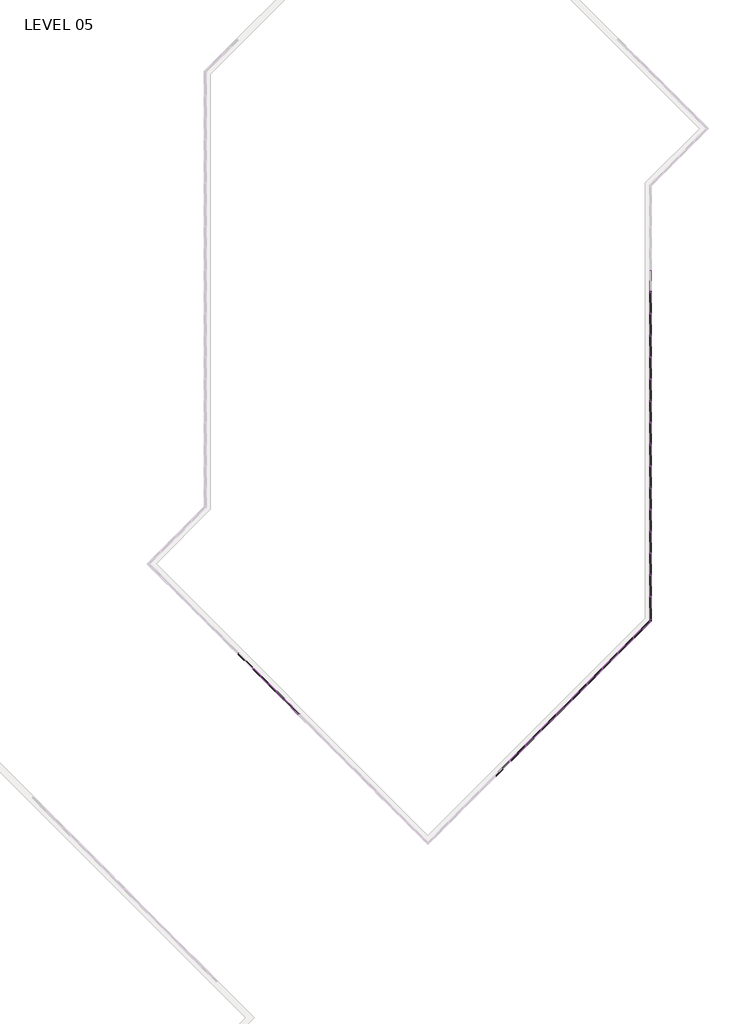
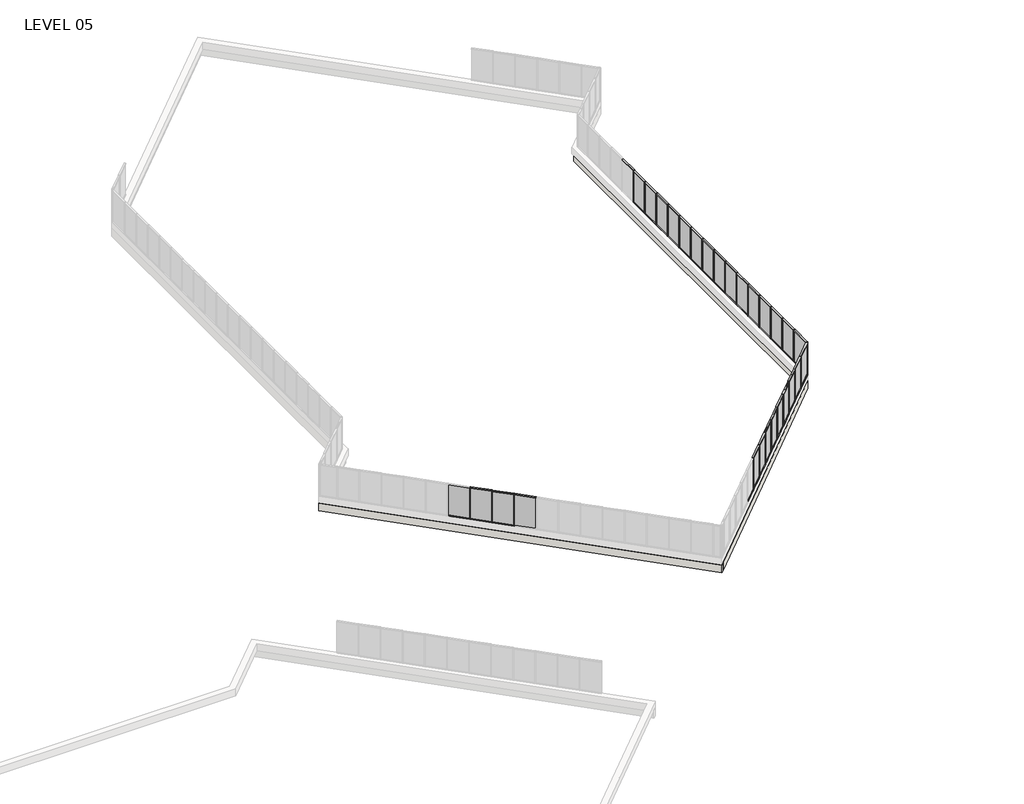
# One storey, part 11 of 17: 85 members, 28 plates, 3 walls.
"""IFC4 building model written with IfcOpenShell, lengths in millimetres."""

from ifc_helpers import new_model, si_unit, origin, place, context, project, spatial, faceted_brep, transform, mapped, element, save
from components import member_5247f267, member_e44af9ab, member_800970d4, member_1bd862b2, member_c975838b, member_910c08c9, plate_67294edd, plate_bbcbcabf, plate_3fb62afd, plate_88df3e37

model = new_model("IFC4")

# Units and contexts
model_context = context("Model", 3, world=origin())
ifc_project = project(units=[si_unit("LENGTHUNIT", "METRE", prefix="MILLI")], contexts=[model_context])

# Site, building, storey
site = spatial("IfcSite", under=ifc_project)
building = spatial("IfcBuilding", under=site)
storey = spatial("IfcBuildingStorey", under=building, Name="LEVEL 05", Elevation=15824.2)

# Members
placement = place(None, origin())
member_shape = member_5247f267(model_context)
element("IfcMember", 1, ObjectType="Rectangular Mullion : 2\" x 4.5\" rectangular", at=placement, inside=storey, context=model_context, shape_type="MappedRepresentation", body=[
    mapped(member_shape, transform((92435.9347164, 58305.3675885, 18415.0), x_axis=(0.0, 0.0, 1.0), y_axis=(-1.0, 0.0, 0.0), z_axis=(0.0, -1.0, 0.0))),
])
element("IfcMember", 2, ObjectType="Rectangular Mullion : 2\" x 4.5\" rectangular", at=placement, inside=storey, context=model_context, shape_type="MappedRepresentation", body=[
    mapped(member_shape, transform((92435.9347164, 56781.3675885, 18415.0), x_axis=(0.0, 0.0, 1.0), y_axis=(-1.0, 0.0, 0.0), z_axis=(0.0, -1.0, 0.0))),
])
element("IfcMember", 3, ObjectType="Rectangular Mullion : 2\" x 4.5\" rectangular", at=placement, inside=storey, context=model_context, shape_type="MappedRepresentation", body=[
    mapped(member_shape, transform((92435.9347164, 55257.3675885, 18415.0), x_axis=(0.0, 0.0, 1.0), y_axis=(-1.0, 0.0, 0.0), z_axis=(0.0, -1.0, 0.0))),
])
element("IfcMember", 4, ObjectType="Rectangular Mullion : 2\" x 4.5\" rectangular", at=placement, inside=storey, context=model_context, shape_type="MappedRepresentation", body=[
    mapped(member_shape, transform((92435.9347164, 52209.3675885, 18415.0), x_axis=(0.0, 0.0, 1.0), y_axis=(-1.0, 0.0, 0.0), z_axis=(0.0, -1.0, 0.0))),
])
element("IfcMember", 5, ObjectType="Rectangular Mullion : 2\" x 4.5\" rectangular", at=placement, inside=storey, context=model_context, shape_type="MappedRepresentation", body=[
    mapped(member_shape, transform((92435.9347164, 50685.3675885, 18415.0), x_axis=(0.0, 0.0, 1.0), y_axis=(-1.0, 0.0, 0.0), z_axis=(0.0, -1.0, 0.0))),
])
element("IfcMember", 6, ObjectType="Rectangular Mullion : 2\" x 4.5\" rectangular", at=placement, inside=storey, context=model_context, shape_type="MappedRepresentation", body=[
    mapped(member_shape, transform((92435.9347164, 47637.3675885, 18415.0), x_axis=(0.0, 0.0, 1.0), y_axis=(-1.0, 0.0, 0.0), z_axis=(0.0, -1.0, 0.0))),
])
element("IfcMember", 7, ObjectType="Rectangular Mullion : 2\" x 4.5\" rectangular", at=placement, inside=storey, context=model_context, shape_type="MappedRepresentation", body=[
    mapped(member_shape, transform((92435.9347164, 43065.3675885, 18415.0), x_axis=(0.0, 0.0, 1.0), y_axis=(-1.0, 0.0, 0.0), z_axis=(0.0, -1.0, 0.0))),
])
element("IfcMember", 8, ObjectType="Rectangular Mullion : 2\" x 4.5\" rectangular", at=placement, inside=storey, context=model_context, shape_type="MappedRepresentation", body=[
    mapped(member_shape, transform((92435.9347164, 41541.3675885, 18415.0), x_axis=(0.0, 0.0, 1.0), y_axis=(-1.0, 0.0, 0.0), z_axis=(0.0, -1.0, 0.0))),
])
element("IfcMember", 9, ObjectType="Rectangular Mullion : 2\" x 4.5\" rectangular", at=placement, inside=storey, context=model_context, shape_type="MappedRepresentation", body=[
    mapped(member_shape, transform((92435.9347164, 59829.3675885, 18415.0), x_axis=(0.0, 0.0, 1.0), y_axis=(-1.0, 0.0, 0.0), z_axis=(0.0, -1.0, 0.0))),
])
element("IfcMember", 10, ObjectType="Rectangular Mullion : 2\" x 4.5\" rectangular", at=placement, inside=storey, context=model_context, shape_type="MappedRepresentation", body=[
    mapped(member_shape, transform((92435.9347164, 61353.3675885, 18415.0), x_axis=(0.0, 0.0, 1.0), y_axis=(-1.0, 0.0, 0.0), z_axis=(0.0, -1.0, 0.0))),
])
element("IfcMember", 11, ObjectType="Rectangular Mullion : 2\" x 4.5\" rectangular", at=placement, inside=storey, context=model_context, shape_type="MappedRepresentation", body=[
    mapped(member_shape, transform((92435.9347164, 49161.3675885, 18415.0), x_axis=(0.0, 0.0, 1.0), y_axis=(-1.0, 0.0, 0.0), z_axis=(0.0, -1.0, 0.0))),
])
element("IfcMember", 12, ObjectType="Rectangular Mullion : 2\" x 4.5\" rectangular", at=placement, inside=storey, context=model_context, shape_type="MappedRepresentation", body=[
    mapped(member_shape, transform((92435.9347164, 53733.3675885, 18415.0), x_axis=(0.0, 0.0, 1.0), y_axis=(-1.0, 0.0, 0.0), z_axis=(0.0, -1.0, 0.0))),
])
element("IfcMember", 13, ObjectType="Rectangular Mullion : 2\" x 4.5\" rectangular", at=placement, inside=storey, context=model_context, shape_type="MappedRepresentation", body=[
    mapped(member_shape, transform((92435.9347164, 46113.3675885, 18415.0), x_axis=(0.0, 0.0, 1.0), y_axis=(-1.0, 0.0, 0.0), z_axis=(0.0, -1.0, 0.0))),
])
element("IfcMember", 14, ObjectType="Rectangular Mullion : 2\" x 4.5\" rectangular", at=placement, inside=storey, context=model_context, shape_type="MappedRepresentation", body=[
    mapped(member_shape, transform((92435.9347164, 44589.3675885, 18415.0), x_axis=(0.0, 0.0, 1.0), y_axis=(-1.0, 0.0, 0.0), z_axis=(0.0, -1.0, 0.0))),
])
element("IfcMember", 15, ObjectType="Rectangular Mullion : 2\" x 4.5\" rectangular", at=placement, inside=storey, context=model_context, shape_type="MappedRepresentation", body=[
    mapped(member_shape, transform((92435.9347164, 40017.3675885, 18415.0), x_axis=(0.0, 0.0, 1.0), y_axis=(-1.0, 0.0, 0.0), z_axis=(0.0, -1.0, 0.0))),
])
element("IfcMember", 16, ObjectType="Rectangular Mullion : 2\" x 4.5\" rectangular", at=placement, inside=storey, context=model_context, shape_type="MappedRepresentation", body=[
    mapped(member_shape, transform((90181.6405, 36047.9672365, 18415.0), x_axis=(0.0, 0.0, 1.0), y_axis=(-0.7071067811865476, 0.7071067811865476, 0.0), z_axis=(-0.7071067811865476, -0.7071067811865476, 0.0))),
])
element("IfcMember", 17, ObjectType="Rectangular Mullion : 2\" x 4.5\" rectangular", at=placement, inside=storey, context=model_context, shape_type="MappedRepresentation", body=[
    mapped(member_shape, transform((89104.0097655, 34970.336502, 18415.0), x_axis=(0.0, 0.0, 1.0), y_axis=(-0.7071067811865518, 0.7071067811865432, 0.0), z_axis=(-0.7071067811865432, -0.7071067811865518, 0.0))),
])
element("IfcMember", 18, ObjectType="Rectangular Mullion : 2\" x 4.5\" rectangular", at=placement, inside=storey, context=model_context, shape_type="MappedRepresentation", body=[
    mapped(member_shape, transform((88026.379031, 33892.7057675, 18415.0), x_axis=(0.0, 0.0, 1.0), y_axis=(-0.707106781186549, 0.7071067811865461, 0.0), z_axis=(-0.7071067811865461, -0.707106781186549, 0.0))),
])
element("IfcMember", 19, ObjectType="Rectangular Mullion : 2\" x 4.5\" rectangular", at=placement, inside=storey, context=model_context, shape_type="MappedRepresentation", body=[
    mapped(member_shape, transform((85871.1175619, 31737.4442984, 18415.0), x_axis=(0.0, 0.0, 1.0), y_axis=(-0.7071067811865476, 0.7071067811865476, 0.0), z_axis=(-0.7071067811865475, -0.7071067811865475, 0.0))),
])
element("IfcMember", 20, ObjectType="Rectangular Mullion : 2\" x 4.5\" rectangular", at=placement, inside=storey, context=model_context, shape_type="MappedRepresentation", body=[
    mapped(member_shape, transform((84793.4868274, 30659.8135639, 18415.0), x_axis=(0.0, 0.0, 1.0), y_axis=(-0.7071067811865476, 0.7071067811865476, 0.0), z_axis=(-0.7071067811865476, -0.7071067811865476, 0.0))),
])
element("IfcMember", 21, ObjectType="Rectangular Mullion : 2\" x 4.5\" rectangular", at=placement, inside=storey, context=model_context, shape_type="MappedRepresentation", body=[
    mapped(member_shape, transform((83715.8560929, 29582.1828294, 18415.0), x_axis=(0.0, 0.0, 1.0), y_axis=(-0.7071067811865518, 0.7071067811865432, 0.0), z_axis=(-0.7071067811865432, -0.7071067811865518, 0.0))),
])
element("IfcMember", 22, ObjectType="Rectangular Mullion : 2\" x 4.5\" rectangular", at=placement, inside=storey, context=model_context, shape_type="MappedRepresentation", body=[
    mapped(member_shape, transform((86948.7482965, 32815.0750329, 18415.0), x_axis=(0.0, 0.0, 1.0), y_axis=(-0.7071067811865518, 0.7071067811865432, 0.0), z_axis=(-0.7071067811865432, -0.7071067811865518, 0.0))),
])
element("IfcMember", 23, ObjectType="Rectangular Mullion : 2\" x 4.5\" rectangular", at=placement, inside=storey, context=model_context, shape_type="MappedRepresentation", body=[
    mapped(member_shape, transform((82638.2253583, 28504.5520948, 18415.0), x_axis=(0.0, 0.0, 1.0), y_axis=(-0.7071067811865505, 0.7071067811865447, 0.0), z_axis=(-0.7071067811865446, -0.7071067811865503, 0.0))),
])
element("IfcMember", 24, ObjectType="Rectangular Mullion : 2\" x 4.5\" rectangular", at=placement, inside=storey, context=model_context, shape_type="MappedRepresentation", body=[
    mapped(member_shape, transform((64631.8093644, 34934.2368049, 18415.0), x_axis=(0.0, 0.0, 1.0), y_axis=(0.7071067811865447, 0.7071067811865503, 0.0), z_axis=(-0.7071067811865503, 0.7071067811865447, 0.0))),
])
element("IfcMember", 25, ObjectType="Rectangular Mullion : 2\" x 4.5\" rectangular", at=placement, inside=storey, context=model_context, shape_type="MappedRepresentation", body=[
    mapped(member_shape, transform((92435.9347164, 58254.5675885, 15824.2), x_axis=(0.0, 0.0, -1.0), y_axis=(-1.0, 0.0, 0.0), z_axis=(0.0, 1.0, 0.0))),
])
element("IfcMember", 26, ObjectType="Rectangular Mullion : 2\" x 4.5\" rectangular", at=placement, inside=storey, context=model_context, shape_type="MappedRepresentation", body=[
    mapped(member_shape, transform((92435.9347164, 56730.5675885, 15824.2), x_axis=(0.0, 0.0, -1.0), y_axis=(-1.0, 0.0, 0.0), z_axis=(0.0, 1.0, 0.0))),
])
element("IfcMember", 27, ObjectType="Rectangular Mullion : 2\" x 4.5\" rectangular", at=placement, inside=storey, context=model_context, shape_type="MappedRepresentation", body=[
    mapped(member_shape, transform((92435.9347164, 55206.5675885, 15824.2), x_axis=(0.0, 0.0, -1.0), y_axis=(-1.0, 0.0, 0.0), z_axis=(0.0, 1.0, 0.0))),
])
element("IfcMember", 28, ObjectType="Rectangular Mullion : 2\" x 4.5\" rectangular", at=placement, inside=storey, context=model_context, shape_type="MappedRepresentation", body=[
    mapped(member_shape, transform((92435.9347164, 52158.5675885, 15824.2), x_axis=(0.0, 0.0, -1.0), y_axis=(-1.0, 0.0, 0.0), z_axis=(0.0, 1.0, 0.0))),
])
element("IfcMember", 29, ObjectType="Rectangular Mullion : 2\" x 4.5\" rectangular", at=placement, inside=storey, context=model_context, shape_type="MappedRepresentation", body=[
    mapped(member_shape, transform((92435.9347164, 50634.5675885, 15824.2), x_axis=(0.0, 0.0, -1.0), y_axis=(-1.0, 0.0, 0.0), z_axis=(0.0, 1.0, 0.0))),
])
element("IfcMember", 30, ObjectType="Rectangular Mullion : 2\" x 4.5\" rectangular", at=placement, inside=storey, context=model_context, shape_type="MappedRepresentation", body=[
    mapped(member_shape, transform((92435.9347164, 47586.5675885, 15824.2), x_axis=(0.0, 0.0, -1.0), y_axis=(-1.0, 0.0, 0.0), z_axis=(0.0, 1.0, 0.0))),
])
element("IfcMember", 31, ObjectType="Rectangular Mullion : 2\" x 4.5\" rectangular", at=placement, inside=storey, context=model_context, shape_type="MappedRepresentation", body=[
    mapped(member_shape, transform((92435.9347164, 43014.5675885, 15824.2), x_axis=(0.0, 0.0, -1.0), y_axis=(-1.0, 0.0, 0.0), z_axis=(0.0, 1.0, 0.0))),
])
element("IfcMember", 32, ObjectType="Rectangular Mullion : 2\" x 4.5\" rectangular", at=placement, inside=storey, context=model_context, shape_type="MappedRepresentation", body=[
    mapped(member_shape, transform((92435.9347164, 41490.5675885, 15824.2), x_axis=(0.0, 0.0, -1.0), y_axis=(-1.0, 0.0, 0.0), z_axis=(0.0, 1.0, 0.0))),
])
element("IfcMember", 33, ObjectType="Rectangular Mullion : 2\" x 4.5\" rectangular", at=placement, inside=storey, context=model_context, shape_type="MappedRepresentation", body=[
    mapped(member_shape, transform((92435.9347164, 59778.5675885, 15824.2), x_axis=(0.0, 0.0, -1.0), y_axis=(-1.0, 0.0, 0.0), z_axis=(0.0, 1.0, 0.0))),
])
element("IfcMember", 34, ObjectType="Rectangular Mullion : 2\" x 4.5\" rectangular", at=placement, inside=storey, context=model_context, shape_type="MappedRepresentation", body=[
    mapped(member_shape, transform((92435.9347164, 61302.5675885, 15824.2), x_axis=(0.0, 0.0, -1.0), y_axis=(-1.0, 0.0, 0.0), z_axis=(0.0, 1.0, 0.0))),
])
element("IfcMember", 35, ObjectType="Rectangular Mullion : 2\" x 4.5\" rectangular", at=placement, inside=storey, context=model_context, shape_type="MappedRepresentation", body=[
    mapped(member_shape, transform((92435.9347164, 49110.5675885, 15824.2), x_axis=(0.0, 0.0, -1.0), y_axis=(-1.0, 0.0, 0.0), z_axis=(0.0, 1.0, 0.0))),
])
element("IfcMember", 36, ObjectType="Rectangular Mullion : 2\" x 4.5\" rectangular", at=placement, inside=storey, context=model_context, shape_type="MappedRepresentation", body=[
    mapped(member_shape, transform((92435.9347164, 53682.5675885, 15824.2), x_axis=(0.0, 0.0, -1.0), y_axis=(-1.0, 0.0, 0.0), z_axis=(0.0, 1.0, 0.0))),
])
element("IfcMember", 37, ObjectType="Rectangular Mullion : 2\" x 4.5\" rectangular", at=placement, inside=storey, context=model_context, shape_type="MappedRepresentation", body=[
    mapped(member_shape, transform((92435.9347164, 46062.5675885, 15824.2), x_axis=(0.0, 0.0, -1.0), y_axis=(-1.0, 0.0, 0.0), z_axis=(0.0, 1.0, 0.0))),
])
element("IfcMember", 38, ObjectType="Rectangular Mullion : 2\" x 4.5\" rectangular", at=placement, inside=storey, context=model_context, shape_type="MappedRepresentation", body=[
    mapped(member_shape, transform((92435.9347164, 44538.5675885, 15824.2), x_axis=(0.0, 0.0, -1.0), y_axis=(-1.0, 0.0, 0.0), z_axis=(0.0, 1.0, 0.0))),
])
element("IfcMember", 39, ObjectType="Rectangular Mullion : 2\" x 4.5\" rectangular", at=placement, inside=storey, context=model_context, shape_type="MappedRepresentation", body=[
    mapped(member_shape, transform((91223.3502101, 37089.6769466, 15824.2), x_axis=(0.0, 0.0, -1.0), y_axis=(-0.7071067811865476, 0.7071067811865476, 0.0), z_axis=(0.7071067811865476, 0.7071067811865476, 0.0))),
])
element("IfcMember", 40, ObjectType="Rectangular Mullion : 2\" x 4.5\" rectangular", at=placement, inside=storey, context=model_context, shape_type="MappedRepresentation", body=[
    mapped(member_shape, transform((90145.7194756, 36012.046212, 15824.2), x_axis=(0.0, 0.0, -1.0), y_axis=(-0.7071067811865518, 0.7071067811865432, 0.0), z_axis=(0.7071067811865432, 0.7071067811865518, 0.0))),
])
element("IfcMember", 41, ObjectType="Rectangular Mullion : 2\" x 4.5\" rectangular", at=placement, inside=storey, context=model_context, shape_type="MappedRepresentation", body=[
    mapped(member_shape, transform((89068.088741, 34934.4154775, 15824.2), x_axis=(0.0, 0.0, -1.0), y_axis=(-0.707106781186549, 0.7071067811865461, 0.0), z_axis=(0.7071067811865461, 0.707106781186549, 0.0))),
])
element("IfcMember", 42, ObjectType="Rectangular Mullion : 2\" x 4.5\" rectangular", at=placement, inside=storey, context=model_context, shape_type="MappedRepresentation", body=[
    mapped(member_shape, transform((87990.4580065, 33856.784743, 15824.2), x_axis=(0.0, 0.0, -1.0), y_axis=(-0.7071067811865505, 0.7071067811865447, 0.0), z_axis=(0.7071067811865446, 0.7071067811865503, 0.0))),
])
element("IfcMember", 43, ObjectType="Rectangular Mullion : 2\" x 4.5\" rectangular", at=placement, inside=storey, context=model_context, shape_type="MappedRepresentation", body=[
    mapped(member_shape, transform((85835.1965374, 31701.5232739, 15824.2), x_axis=(0.0, 0.0, -1.0), y_axis=(-0.7071067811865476, 0.7071067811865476, 0.0), z_axis=(0.7071067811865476, 0.7071067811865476, 0.0))),
])
element("IfcMember", 44, ObjectType="Rectangular Mullion : 2\" x 4.5\" rectangular", at=placement, inside=storey, context=model_context, shape_type="MappedRepresentation", body=[
    mapped(member_shape, transform((84757.5658029, 30623.8925394, 15824.2), x_axis=(0.0, 0.0, -1.0), y_axis=(-0.7071067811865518, 0.7071067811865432, 0.0), z_axis=(0.7071067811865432, 0.7071067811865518, 0.0))),
])
element("IfcMember", 45, ObjectType="Rectangular Mullion : 2\" x 4.5\" rectangular", at=placement, inside=storey, context=model_context, shape_type="MappedRepresentation", body=[
    mapped(member_shape, transform((83679.9350684, 29546.2618049, 15824.2), x_axis=(0.0, 0.0, -1.0), y_axis=(-0.7071067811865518, 0.7071067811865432, 0.0), z_axis=(0.7071067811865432, 0.7071067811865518, 0.0))),
])
element("IfcMember", 46, ObjectType="Rectangular Mullion : 2\" x 4.5\" rectangular", at=placement, inside=storey, context=model_context, shape_type="MappedRepresentation", body=[
    mapped(member_shape, transform((86912.827272, 32779.1540085, 15824.2), x_axis=(0.0, 0.0, -1.0), y_axis=(-0.7071067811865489, 0.7071067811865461, 0.0), z_axis=(0.7071067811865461, 0.7071067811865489, 0.0))),
])
element("IfcMember", 47, ObjectType="Rectangular Mullion : 2\" x 4.5\" rectangular", at=placement, inside=storey, context=model_context, shape_type="MappedRepresentation", body=[
    mapped(member_shape, transform((82602.3043339, 28468.6310704, 15824.2), x_axis=(0.0, 0.0, -1.0), y_axis=(-0.7071067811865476, 0.7071067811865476, 0.0), z_axis=(0.7071067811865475, 0.7071067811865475, 0.0))),
])
element("IfcMember", 48, ObjectType="Rectangular Mullion : 2\" x 4.5\" rectangular", at=placement, inside=storey, context=model_context, shape_type="MappedRepresentation", body=[
    mapped(member_shape, transform((65673.5190745, 33892.5270948, 15824.2), x_axis=(0.0, 0.0, -1.0), y_axis=(0.7071067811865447, 0.7071067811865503, 0.0), z_axis=(0.7071067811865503, -0.7071067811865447, 0.0))),
])
element("IfcMember", 49, ObjectType="Rectangular Mullion : 2\" x 4.5\" rectangular", at=placement, inside=storey, context=model_context, shape_type="MappedRepresentation", body=[
    mapped(member_shape, transform((64595.8883399, 34970.1578294, 15824.2), x_axis=(0.0, 0.0, -1.0), y_axis=(0.7071067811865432, 0.7071067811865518, 0.0), z_axis=(0.7071067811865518, -0.7071067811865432, 0.0))),
])
member_2_shape = member_e44af9ab(model_context)
element("IfcMember", 50, ObjectType="Rectangular Mullion : 2\" x 4.5\" rectangular", at=placement, inside=storey, context=model_context, shape_type="MappedRepresentation", body=[
    mapped(member_2_shape, transform((92435.9347164, 58279.9675885, 15824.2), x_axis=(0.0, -1.0, 0.0), y_axis=(-1.0, 0.0, 0.0), z_axis=(0.0, 0.0, -1.0))),
])
element("IfcMember", 51, ObjectType="Rectangular Mullion : 2\" x 4.5\" rectangular", at=placement, inside=storey, context=model_context, shape_type="MappedRepresentation", body=[
    mapped(member_2_shape, transform((92435.9347164, 56755.9675885, 15824.2), x_axis=(0.0, -1.0, 0.0), y_axis=(-1.0, 0.0, 0.0), z_axis=(0.0, 0.0, -1.0))),
])
element("IfcMember", 52, ObjectType="Rectangular Mullion : 2\" x 4.5\" rectangular", at=placement, inside=storey, context=model_context, shape_type="MappedRepresentation", body=[
    mapped(member_2_shape, transform((92435.9347164, 55231.9675885, 15824.2), x_axis=(0.0, -1.0, 0.0), y_axis=(-1.0, 0.0, 0.0), z_axis=(0.0, 0.0, -1.0))),
])
element("IfcMember", 53, ObjectType="Rectangular Mullion : 2\" x 4.5\" rectangular", at=placement, inside=storey, context=model_context, shape_type="MappedRepresentation", body=[
    mapped(member_2_shape, transform((92435.9347164, 52183.9675885, 15824.2), x_axis=(0.0, -1.0, 0.0), y_axis=(-1.0, 0.0, 0.0), z_axis=(0.0, 0.0, -1.0))),
])
element("IfcMember", 54, ObjectType="Rectangular Mullion : 2\" x 4.5\" rectangular", at=placement, inside=storey, context=model_context, shape_type="MappedRepresentation", body=[
    mapped(member_2_shape, transform((92435.9347164, 50659.9675885, 15824.2), x_axis=(0.0, -1.0, 0.0), y_axis=(-1.0, 0.0, 0.0), z_axis=(0.0, 0.0, -1.0))),
])
element("IfcMember", 55, ObjectType="Rectangular Mullion : 2\" x 4.5\" rectangular", at=placement, inside=storey, context=model_context, shape_type="MappedRepresentation", body=[
    mapped(member_2_shape, transform((92435.9347164, 47611.9675885, 15824.2), x_axis=(0.0, -1.0, 0.0), y_axis=(-1.0, 0.0, 0.0), z_axis=(0.0, 0.0, -1.0))),
])
element("IfcMember", 56, ObjectType="Rectangular Mullion : 2\" x 4.5\" rectangular", at=placement, inside=storey, context=model_context, shape_type="MappedRepresentation", body=[
    mapped(member_2_shape, transform((92435.9347164, 43039.9675885, 15824.2), x_axis=(0.0, -1.0, 0.0), y_axis=(-1.0, 0.0, 0.0), z_axis=(0.0, 0.0, -1.0))),
])
element("IfcMember", 57, ObjectType="Rectangular Mullion : 2\" x 4.5\" rectangular", at=placement, inside=storey, context=model_context, shape_type="MappedRepresentation", body=[
    mapped(member_2_shape, transform((92435.9347164, 41515.9675885, 15824.2), x_axis=(0.0, -1.0, 0.0), y_axis=(-1.0, 0.0, 0.0), z_axis=(0.0, 0.0, -1.0))),
])
element("IfcMember", 58, ObjectType="Rectangular Mullion : 2\" x 4.5\" rectangular", at=placement, inside=storey, context=model_context, shape_type="MappedRepresentation", body=[
    mapped(member_2_shape, transform((92435.9347164, 59803.9675885, 15824.2), x_axis=(0.0, -1.0, 0.0), y_axis=(-1.0, 0.0, 0.0), z_axis=(0.0, 0.0, -1.0))),
])
element("IfcMember", 59, ObjectType="Rectangular Mullion : 2\" x 4.5\" rectangular", at=placement, inside=storey, context=model_context, shape_type="MappedRepresentation", body=[
    mapped(member_2_shape, transform((92435.9347164, 61327.9675885, 15824.2), x_axis=(0.0, -1.0, 0.0), y_axis=(-1.0, 0.0, 0.0), z_axis=(0.0, 0.0, -1.0))),
])
element("IfcMember", 60, ObjectType="Rectangular Mullion : 2\" x 4.5\" rectangular", at=placement, inside=storey, context=model_context, shape_type="MappedRepresentation", body=[
    mapped(member_2_shape, transform((92435.9347164, 49135.9675885, 15824.2), x_axis=(0.0, -1.0, 0.0), y_axis=(-1.0, 0.0, 0.0), z_axis=(0.0, 0.0, -1.0))),
])
element("IfcMember", 61, ObjectType="Rectangular Mullion : 2\" x 4.5\" rectangular", at=placement, inside=storey, context=model_context, shape_type="MappedRepresentation", body=[
    mapped(member_2_shape, transform((92435.9347164, 53707.9675885, 15824.2), x_axis=(0.0, -1.0, 0.0), y_axis=(-1.0, 0.0, 0.0), z_axis=(0.0, 0.0, -1.0))),
])
element("IfcMember", 62, ObjectType="Rectangular Mullion : 2\" x 4.5\" rectangular", at=placement, inside=storey, context=model_context, shape_type="MappedRepresentation", body=[
    mapped(member_2_shape, transform((92435.9347164, 46087.9675885, 15824.2), x_axis=(0.0, -1.0, 0.0), y_axis=(-1.0, 0.0, 0.0), z_axis=(0.0, 0.0, -1.0))),
])
element("IfcMember", 63, ObjectType="Rectangular Mullion : 2\" x 4.5\" rectangular", at=placement, inside=storey, context=model_context, shape_type="MappedRepresentation", body=[
    mapped(member_2_shape, transform((92435.9347164, 44563.9675885, 15824.2), x_axis=(0.0, -1.0, 0.0), y_axis=(-1.0, 0.0, 0.0), z_axis=(0.0, 0.0, -1.0))),
])
element("IfcMember", 64, ObjectType="Rectangular Mullion : 2\" x 4.5\" rectangular", at=placement, inside=storey, context=model_context, shape_type="MappedRepresentation", body=[
    mapped(member_2_shape, transform((92435.9347164, 39991.9675885, 15824.2), x_axis=(0.0, -1.0, 0.0), y_axis=(-1.0, 0.0, 0.0), z_axis=(0.0, 0.0, -1.0))),
])
element("IfcMember", 65, ObjectType="Rectangular Mullion : 2\" x 4.5\" rectangular", at=placement, inside=storey, context=model_context, shape_type="MappedRepresentation", body=[
    mapped(member_2_shape, transform((91241.3107223, 37107.6374588, 15824.2), x_axis=(-0.7071067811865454, -0.7071067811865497, 0.0), y_axis=(-0.7071067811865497, 0.7071067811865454, 0.0), z_axis=(0.0, 0.0, -1.0))),
])
element("IfcMember", 66, ObjectType="Rectangular Mullion : 2\" x 4.5\" rectangular", at=placement, inside=storey, context=model_context, shape_type="MappedRepresentation", body=[
    mapped(member_2_shape, transform((90163.6799878, 36030.0067243, 15824.2), x_axis=(-0.7071067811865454, -0.7071067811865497, 0.0), y_axis=(-0.7071067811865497, 0.7071067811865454, 0.0), z_axis=(0.0, 0.0, -1.0))),
])
element("IfcMember", 67, ObjectType="Rectangular Mullion : 2\" x 4.5\" rectangular", at=placement, inside=storey, context=model_context, shape_type="MappedRepresentation", body=[
    mapped(member_2_shape, transform((89086.0492533, 34952.3759898, 15824.2), x_axis=(-0.7071067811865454, -0.7071067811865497, 0.0), y_axis=(-0.7071067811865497, 0.7071067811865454, 0.0), z_axis=(0.0, 0.0, -1.0))),
])
element("IfcMember", 68, ObjectType="Rectangular Mullion : 2\" x 4.5\" rectangular", at=placement, inside=storey, context=model_context, shape_type="MappedRepresentation", body=[
    mapped(member_2_shape, transform((88008.4185187, 33874.7452552, 15824.2), x_axis=(-0.7071067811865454, -0.7071067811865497, 0.0), y_axis=(-0.7071067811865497, 0.7071067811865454, 0.0), z_axis=(0.0, 0.0, -1.0))),
])
element("IfcMember", 69, ObjectType="Rectangular Mullion : 2\" x 4.5\" rectangular", at=placement, inside=storey, context=model_context, shape_type="MappedRepresentation", body=[
    mapped(member_2_shape, transform((85853.1570497, 31719.4837862, 15824.2), x_axis=(-0.7071067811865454, -0.7071067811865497, 0.0), y_axis=(-0.7071067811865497, 0.7071067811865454, 0.0), z_axis=(0.0, 0.0, -1.0))),
])
element("IfcMember", 70, ObjectType="Rectangular Mullion : 2\" x 4.5\" rectangular", at=placement, inside=storey, context=model_context, shape_type="MappedRepresentation", body=[
    mapped(member_2_shape, transform((84775.5263152, 30641.8530517, 15824.2), x_axis=(-0.7071067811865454, -0.7071067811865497, 0.0), y_axis=(-0.7071067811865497, 0.7071067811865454, 0.0), z_axis=(0.0, 0.0, -1.0))),
])
element("IfcMember", 71, ObjectType="Rectangular Mullion : 2\" x 4.5\" rectangular", at=placement, inside=storey, context=model_context, shape_type="MappedRepresentation", body=[
    mapped(member_2_shape, transform((83697.8955806, 29564.2223171, 15824.2), x_axis=(-0.7071067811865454, -0.7071067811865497, 0.0), y_axis=(-0.7071067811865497, 0.7071067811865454, 0.0), z_axis=(0.0, 0.0, -1.0))),
])
element("IfcMember", 72, ObjectType="Rectangular Mullion : 2\" x 4.5\" rectangular", at=placement, inside=storey, context=model_context, shape_type="MappedRepresentation", body=[
    mapped(member_2_shape, transform((86930.7877842, 32797.1145207, 15824.2), x_axis=(-0.7071067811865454, -0.7071067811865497, 0.0), y_axis=(-0.7071067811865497, 0.7071067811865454, 0.0), z_axis=(0.0, 0.0, -1.0))),
])
element("IfcMember", 73, ObjectType="Rectangular Mullion : 2\" x 4.5\" rectangular", at=placement, inside=storey, context=model_context, shape_type="MappedRepresentation", body=[
    mapped(member_2_shape, transform((82620.2648461, 28486.5915826, 15824.2), x_axis=(-0.7071067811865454, -0.7071067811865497, 0.0), y_axis=(-0.7071067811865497, 0.7071067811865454, 0.0), z_axis=(0.0, 0.0, -1.0))),
])
element("IfcMember", 74, ObjectType="Rectangular Mullion : 2\" x 4.5\" rectangular", at=placement, inside=storey, context=model_context, shape_type="MappedRepresentation", body=[
    mapped(member_2_shape, transform((65691.4795867, 33874.5665826, 15824.2), x_axis=(-0.7071067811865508, 0.7071067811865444, 0.0), y_axis=(0.7071067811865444, 0.7071067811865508, 0.0), z_axis=(0.0, 0.0, -1.0))),
])
element("IfcMember", 75, ObjectType="Rectangular Mullion : 2\" x 4.5\" rectangular", at=placement, inside=storey, context=model_context, shape_type="MappedRepresentation", body=[
    mapped(member_2_shape, transform((64613.8488522, 34952.1973171, 15824.2), x_axis=(-0.7071067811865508, 0.7071067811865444, 0.0), y_axis=(0.7071067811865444, 0.7071067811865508, 0.0), z_axis=(0.0, 0.0, -1.0))),
])
element("IfcMember", 76, ObjectType="Rectangular Mullion : 2\" x 4.5\" rectangular", at=placement, inside=storey, context=model_context, shape_type="MappedRepresentation", body=[
    mapped(member_2_shape, transform((66768.9316486, 32797.1145207, 15824.2), x_axis=(-0.7071067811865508, 0.7071067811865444, 0.0), y_axis=(0.7071067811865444, 0.7071067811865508, 0.0), z_axis=(0.0, 0.0, -1.0))),
])
member_3_shape = member_800970d4(model_context)
element("IfcMember", 77, ObjectType="Rectangular Mullion : 2\" x 4.5\" rectangular", at=placement, inside=storey, context=model_context, shape_type="MappedRepresentation", body=[
    mapped(member_3_shape, transform((92435.9347164, 38302.2614529, 15824.2), x_axis=(0.0, -1.0, 0.0), y_axis=(-1.0, 0.0, 0.0), z_axis=(0.0, 0.0, -1.0))),
])
element("IfcMember", 78, ObjectType="Rectangular Mullion : 2\" x 4.5\" rectangular", at=placement, inside=storey, context=model_context, shape_type="MappedRepresentation", body=[
    mapped(member_3_shape, transform((92435.9347164, 38302.2614529, 18415.0), x_axis=(0.7071067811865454, 0.7071067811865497, 0.0), y_axis=(-0.7071067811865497, 0.7071067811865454, 0.0), z_axis=(0.0, 0.0, 1.0))),
])
member_4_shape = member_1bd862b2(model_context)
element("IfcMember", 79, ObjectType="Rectangular Mullion : 2\" x 4.5\" rectangular", at=placement, inside=storey, context=model_context, shape_type="MappedRepresentation", body=[
    mapped(member_4_shape, transform((92435.9347164, 39966.5675885, 15824.2), x_axis=(0.0, 0.0, -1.0), y_axis=(-1.0, 0.0, 0.0), z_axis=(0.0, 1.0, 0.0))),
])
element("IfcMember", 80, ObjectType="Rectangular Mullion : 2\" x 4.5\" rectangular", at=placement, inside=storey, context=model_context, shape_type="MappedRepresentation", body=[
    mapped(member_4_shape, transform((92435.9347164, 38353.0614529, 18415.0), x_axis=(0.0, 0.0, 1.0), y_axis=(-1.0, 0.0, 0.0), z_axis=(0.0, -1.0, 0.0))),
])
member_5_shape = member_c975838b(model_context)
element("IfcMember", 81, ObjectType="Rectangular Mullion : 2\" x 4.5\" rectangular", at=placement, inside=storey, context=model_context, shape_type="MappedRepresentation", body=[
    mapped(member_5_shape, transform((92400.0136919, 38266.3404284, 15824.2), x_axis=(0.0, 0.0, -1.0), y_axis=(-0.7071067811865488, 0.7071067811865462, 0.0), z_axis=(0.7071067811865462, 0.7071067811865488, 0.0))),
])
element("IfcMember", 82, ObjectType="Rectangular Mullion : 2\" x 4.5\" rectangular", at=placement, inside=storey, context=model_context, shape_type="MappedRepresentation", body=[
    mapped(member_5_shape, transform((91259.2712346, 37125.5979711, 18415.0), x_axis=(0.0, 0.0, 1.0), y_axis=(-0.7071067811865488, 0.7071067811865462, 0.0), z_axis=(-0.7071067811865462, -0.7071067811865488, 0.0))),
])
member_6_shape = member_910c08c9(model_context)
element("IfcMember", 83, ObjectType="Rectangular Mullion : 2\" x 4.5\" rectangular", at=placement, inside=storey, context=model_context, shape_type="MappedRepresentation", body=[
    mapped(member_6_shape, transform((65709.4400989, 33856.6060704, 18415.0), x_axis=(0.0, 0.0, 1.0), y_axis=(0.7071067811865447, 0.7071067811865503, 0.0), z_axis=(-0.7071067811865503, 0.7071067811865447, 0.0))),
])
element("IfcMember", 84, ObjectType="Rectangular Mullion : 2\" x 4.5\" rectangular", at=placement, inside=storey, context=model_context, shape_type="MappedRepresentation", body=[
    mapped(member_6_shape, transform((66786.8921608, 32779.1540085, 18415.0), x_axis=(0.0, 0.0, 1.0), y_axis=(0.7071067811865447, 0.7071067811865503, 0.0), z_axis=(-0.7071067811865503, 0.7071067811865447, 0.0))),
])
element("IfcMember", 85, ObjectType="Rectangular Mullion : 2\" x 4.5\" rectangular", at=placement, inside=storey, context=model_context, shape_type="MappedRepresentation", body=[
    mapped(member_6_shape, transform((66750.9711363, 32815.0750329, 15824.2), x_axis=(0.0, 0.0, -1.0), y_axis=(0.7071067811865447, 0.7071067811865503, 0.0), z_axis=(0.7071067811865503, -0.7071067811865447, 0.0))),
])

# Plates
plate_shape = plate_67294edd(model_context)
element("IfcPlate", 86, ObjectType="System Panel : 1/4\" Glass", at=placement, inside=storey, context=model_context, shape_type="MappedRepresentation", body=[
    mapped(plate_shape, transform((92435.9347164, 57517.9675885, 15875.0), x_axis=(0.0, -1.0, 0.0), y_axis=(1.0, 0.0, 0.0), z_axis=(0.0, 0.0, 1.0))),
])
element("IfcPlate", 87, ObjectType="System Panel : 1/4\" Glass", at=placement, inside=storey, context=model_context, shape_type="MappedRepresentation", body=[
    mapped(plate_shape, transform((92435.9347164, 55993.9675885, 15875.0), x_axis=(0.0, -1.0, 0.0), y_axis=(1.0, 0.0, 0.0), z_axis=(0.0, 0.0, 1.0))),
])
element("IfcPlate", 88, ObjectType="System Panel : 1/4\" Glass", at=placement, inside=storey, context=model_context, shape_type="MappedRepresentation", body=[
    mapped(plate_shape, transform((92435.9347164, 54469.9675885, 15875.0), x_axis=(0.0, -1.0, 0.0), y_axis=(1.0, 0.0, 0.0), z_axis=(0.0, 0.0, 1.0))),
])
element("IfcPlate", 89, ObjectType="System Panel : 1/4\" Glass", at=placement, inside=storey, context=model_context, shape_type="MappedRepresentation", body=[
    mapped(plate_shape, transform((92435.9347164, 51421.9675885, 15875.0), x_axis=(0.0, -1.0, 0.0), y_axis=(1.0, 0.0, 0.0), z_axis=(0.0, 0.0, 1.0))),
])
element("IfcPlate", 90, ObjectType="System Panel : 1/4\" Glass", at=placement, inside=storey, context=model_context, shape_type="MappedRepresentation", body=[
    mapped(plate_shape, transform((92435.9347164, 49897.9675885, 15875.0), x_axis=(0.0, -1.0, 0.0), y_axis=(1.0, 0.0, 0.0), z_axis=(0.0, 0.0, 1.0))),
])
element("IfcPlate", 91, ObjectType="System Panel : 1/4\" Glass", at=placement, inside=storey, context=model_context, shape_type="MappedRepresentation", body=[
    mapped(plate_shape, transform((92435.9347164, 46849.9675885, 15875.0), x_axis=(0.0, -1.0, 0.0), y_axis=(1.0, 0.0, 0.0), z_axis=(0.0, 0.0, 1.0))),
])
element("IfcPlate", 92, ObjectType="System Panel : 1/4\" Glass", at=placement, inside=storey, context=model_context, shape_type="MappedRepresentation", body=[
    mapped(plate_shape, transform((92435.9347164, 42277.9675885, 15875.0), x_axis=(0.0, -1.0, 0.0), y_axis=(1.0, 0.0, 0.0), z_axis=(0.0, 0.0, 1.0))),
])
element("IfcPlate", 93, ObjectType="System Panel : 1/4\" Glass", at=placement, inside=storey, context=model_context, shape_type="MappedRepresentation", body=[
    mapped(plate_shape, transform((92435.9347164, 40753.9675885, 15875.0), x_axis=(0.0, -1.0, 0.0), y_axis=(1.0, 0.0, 0.0), z_axis=(0.0, 0.0, 1.0))),
])
element("IfcPlate", 94, ObjectType="System Panel : 1/4\" Glass", at=placement, inside=storey, context=model_context, shape_type="MappedRepresentation", body=[
    mapped(plate_shape, transform((92435.9347164, 59041.9675885, 15875.0), x_axis=(0.0, -1.0, 0.0), y_axis=(1.0, 0.0, 0.0), z_axis=(0.0, 0.0, 1.0))),
])
element("IfcPlate", 95, ObjectType="System Panel : 1/4\" Glass", at=placement, inside=storey, context=model_context, shape_type="MappedRepresentation", body=[
    mapped(plate_shape, transform((92435.9347164, 60565.9675885, 15875.0), x_axis=(0.0, -1.0, 0.0), y_axis=(1.0, 0.0, 0.0), z_axis=(0.0, 0.0, 1.0))),
])
element("IfcPlate", 96, ObjectType="System Panel : 1/4\" Glass", at=placement, inside=storey, context=model_context, shape_type="MappedRepresentation", body=[
    mapped(plate_shape, transform((92435.9347164, 48373.9675885, 15875.0), x_axis=(0.0, -1.0, 0.0), y_axis=(1.0, 0.0, 0.0), z_axis=(0.0, 0.0, 1.0))),
])
element("IfcPlate", 97, ObjectType="System Panel : 1/4\" Glass", at=placement, inside=storey, context=model_context, shape_type="MappedRepresentation", body=[
    mapped(plate_shape, transform((92435.9347164, 52945.9675885, 15875.0), x_axis=(0.0, -1.0, 0.0), y_axis=(1.0, 0.0, 0.0), z_axis=(0.0, 0.0, 1.0))),
])
element("IfcPlate", 98, ObjectType="System Panel : 1/4\" Glass", at=placement, inside=storey, context=model_context, shape_type="MappedRepresentation", body=[
    mapped(plate_shape, transform((92435.9347164, 45325.9675885, 15875.0), x_axis=(0.0, -1.0, 0.0), y_axis=(1.0, 0.0, 0.0), z_axis=(0.0, 0.0, 1.0))),
])
element("IfcPlate", 99, ObjectType="System Panel : 1/4\" Glass", at=placement, inside=storey, context=model_context, shape_type="MappedRepresentation", body=[
    mapped(plate_shape, transform((92435.9347164, 43801.9675885, 15875.0), x_axis=(0.0, -1.0, 0.0), y_axis=(1.0, 0.0, 0.0), z_axis=(0.0, 0.0, 1.0))),
])
element("IfcPlate", 100, ObjectType="System Panel : 1/4\" Glass", at=placement, inside=storey, context=model_context, shape_type="MappedRepresentation", body=[
    mapped(plate_shape, transform((90702.4953551, 36568.8220916, 15875.0), x_axis=(-0.7071067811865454, -0.7071067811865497, 0.0), y_axis=(0.7071067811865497, -0.7071067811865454, 0.0), z_axis=(0.0, 0.0, 1.0))),
])
element("IfcPlate", 101, ObjectType="System Panel : 1/4\" Glass", at=placement, inside=storey, context=model_context, shape_type="MappedRepresentation", body=[
    mapped(plate_shape, transform((89624.8646205, 35491.191357, 15875.0), x_axis=(-0.7071067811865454, -0.7071067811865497, 0.0), y_axis=(0.7071067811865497, -0.7071067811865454, 0.0), z_axis=(0.0, 0.0, 1.0))),
])
element("IfcPlate", 102, ObjectType="System Panel : 1/4\" Glass", at=placement, inside=storey, context=model_context, shape_type="MappedRepresentation", body=[
    mapped(plate_shape, transform((88547.233886, 34413.5606225, 15875.0), x_axis=(-0.7071067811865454, -0.7071067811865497, 0.0), y_axis=(0.7071067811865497, -0.7071067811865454, 0.0), z_axis=(0.0, 0.0, 1.0))),
])
element("IfcPlate", 103, ObjectType="System Panel : 1/4\" Glass", at=placement, inside=storey, context=model_context, shape_type="MappedRepresentation", body=[
    mapped(plate_shape, transform((87469.6031515, 33335.929888, 15875.0), x_axis=(-0.7071067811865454, -0.7071067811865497, 0.0), y_axis=(0.7071067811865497, -0.7071067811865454, 0.0), z_axis=(0.0, 0.0, 1.0))),
])
element("IfcPlate", 104, ObjectType="System Panel : 1/4\" Glass", at=placement, inside=storey, context=model_context, shape_type="MappedRepresentation", body=[
    mapped(plate_shape, transform((85314.3416824, 31180.6684189, 15875.0), x_axis=(-0.7071067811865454, -0.7071067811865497, 0.0), y_axis=(0.7071067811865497, -0.7071067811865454, 0.0), z_axis=(0.0, 0.0, 1.0))),
])
element("IfcPlate", 105, ObjectType="System Panel : 1/4\" Glass", at=placement, inside=storey, context=model_context, shape_type="MappedRepresentation", body=[
    mapped(plate_shape, transform((84236.7109479, 30103.0376844, 15875.0), x_axis=(-0.7071067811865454, -0.7071067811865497, 0.0), y_axis=(0.7071067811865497, -0.7071067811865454, 0.0), z_axis=(0.0, 0.0, 1.0))),
])
element("IfcPlate", 106, ObjectType="System Panel : 1/4\" Glass", at=placement, inside=storey, context=model_context, shape_type="MappedRepresentation", body=[
    mapped(plate_shape, transform((83159.0802134, 29025.4069499, 15875.0), x_axis=(-0.7071067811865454, -0.7071067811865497, 0.0), y_axis=(0.7071067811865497, -0.7071067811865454, 0.0), z_axis=(0.0, 0.0, 1.0))),
])
element("IfcPlate", 107, ObjectType="System Panel : 1/4\" Glass", at=placement, inside=storey, context=model_context, shape_type="MappedRepresentation", body=[
    mapped(plate_shape, transform((86391.972417, 32258.2991534, 15875.0), x_axis=(-0.7071067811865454, -0.7071067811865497, 0.0), y_axis=(0.7071067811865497, -0.7071067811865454, 0.0), z_axis=(0.0, 0.0, 1.0))),
])
element("IfcPlate", 108, ObjectType="System Panel : 1/4\" Glass", at=placement, inside=storey, context=model_context, shape_type="MappedRepresentation", body=[
    mapped(plate_shape, transform((65152.6642194, 34413.3819499, 15875.0), x_axis=(-0.7071067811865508, 0.7071067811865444, 0.0), y_axis=(-0.7071067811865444, -0.7071067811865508, 0.0), z_axis=(0.0, 0.0, 1.0))),
])
element("IfcPlate", 109, ObjectType="System Panel : 1/4\" Glass", at=placement, inside=storey, context=model_context, shape_type="MappedRepresentation", body=[
    mapped(plate_shape, transform((64075.0334849, 35491.0126844, 15875.0), x_axis=(-0.7071067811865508, 0.7071067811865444, 0.0), y_axis=(-0.7071067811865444, -0.7071067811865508, 0.0), z_axis=(0.0, 0.0, 1.0))),
])
plate_2_shape = plate_bbcbcabf(model_context)
element("IfcPlate", 110, ObjectType="System Panel : 1/4\" Glass", at=placement, inside=storey, context=model_context, shape_type="MappedRepresentation", body=[
    mapped(plate_2_shape, transform((92435.9347164, 39159.8145207, 15875.0), x_axis=(0.0, -1.0, 0.0), y_axis=(1.0, 0.0, 0.0), z_axis=(0.0, 0.0, 1.0))),
])
plate_3_shape = plate_3fb62afd(model_context)
element("IfcPlate", 111, ObjectType="System Panel : 1/4\" Glass", at=placement, inside=storey, context=model_context, shape_type="MappedRepresentation", body=[
    mapped(plate_3_shape, transform((91829.6424632, 37695.9691997, 15875.0), x_axis=(-0.7071067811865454, -0.7071067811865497, 0.0), y_axis=(0.7071067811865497, -0.7071067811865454, 0.0), z_axis=(0.0, 0.0, 1.0))),
])
plate_4_shape = plate_88df3e37(model_context)
element("IfcPlate", 112, ObjectType="System Panel : 1/4\" Glass", at=placement, inside=storey, context=model_context, shape_type="MappedRepresentation", body=[
    mapped(plate_4_shape, transform((67307.6576795, 32258.3884898, 15875.0), x_axis=(-0.7071067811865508, 0.7071067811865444, 0.0), y_axis=(-0.7071067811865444, -0.7071067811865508, 0.0), z_axis=(0.0, 0.0, 1.0))),
])
element("IfcPlate", 113, ObjectType="System Panel : 1/4\" Glass", at=placement, inside=storey, context=model_context, shape_type="MappedRepresentation", body=[
    mapped(plate_4_shape, transform((66230.2056176, 33335.8405517, 15875.0), x_axis=(-0.7071067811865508, 0.7071067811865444, 0.0), y_axis=(-0.7071067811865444, -0.7071067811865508, 0.0), z_axis=(0.0, 0.0, 1.0))),
])

# Walls
element("IfcWall", 114, ObjectType="01-CONCRETE-12", at=placement, inside=storey, context=model_context, shape_type="Brep", body=[
    faceted_brep([(57207.2562757, 42277.9675885, 14643.1), (76849.8597164, 22635.3641478, 14643.1), (76849.8597164, 22635.3641478, 15265.4), (57207.2562757, 42277.9675885, 15265.4), (57422.7824226, 42493.4937354, 14643.1), (57422.7824226, 42493.4937354, 15265.4), (57638.3085695, 42277.9675885, 15265.4), (76849.8597164, 23066.4164416, 15265.4), (77065.3858633, 22850.8902947, 15265.4), (77065.3858633, 22850.8902947, 14643.1), (76849.8597164, 23066.4164416, 14643.1), (57638.3085695, 42277.9675885, 14643.1)], [[[0, 1, 2, 3]], [[4, 5, 6, 7, 8, 9, 10, 11]], [[1, 0, 4, 11, 10, 9]], [[3, 2, 8, 7, 6, 5]], [[0, 3, 5, 4]], [[2, 1, 9, 8]]]),
])
element("IfcWall", 115, ObjectType="01-CONCRETE-12", at=placement, inside=storey, context=model_context, shape_type="Brep", body=[
    faceted_brep([(77065.3858633, 22850.8902947, 14643.1), (92493.0847164, 38278.5891478, 14643.1), (92493.0847164, 38278.5891478, 15265.4), (77065.3858633, 22850.8902947, 15265.4), (76849.8597164, 23066.4164416, 14643.1), (76849.8597164, 23066.4164416, 15265.4), (92188.2847164, 38404.8414416, 15265.4), (92493.0847164, 38709.6414416, 15265.4), (92493.0847164, 38709.6414416, 14643.1), (92188.2847164, 38404.8414416, 14643.1)], [[[0, 1, 2, 3]], [[4, 5, 6, 7, 8, 9]], [[1, 0, 4, 9, 8]], [[3, 2, 7, 6, 5]], [[2, 1, 8, 7]], [[0, 3, 5, 4]]]),
])
element("IfcWall", 116, ObjectType="01-CONCRETE-12", at=placement, inside=storey, context=model_context, shape_type="Brep", body=[
    faceted_brep([(92493.0847164, 38709.6414416, 14643.1), (92493.0847164, 68758.5891478, 14643.1), (92493.0847164, 69189.6414416, 14643.1), (92493.0847164, 69189.6414416, 15265.4), (92493.0847164, 68758.5891478, 15265.4), (92493.0847164, 38709.6414416, 15265.4), (92188.2847164, 38404.8414416, 14643.1), (92188.2847164, 38404.8414416, 15265.4), (92188.2847164, 68884.8414416, 15265.4), (92188.2847164, 68884.8414416, 14643.1)], [[[0, 1, 2, 3, 4, 5]], [[6, 7, 8, 9]], [[2, 1, 0, 6, 9]], [[5, 4, 3, 8, 7]], [[0, 5, 7, 6]], [[3, 2, 9, 8]]]),
])

save(model, "model.ifc")
